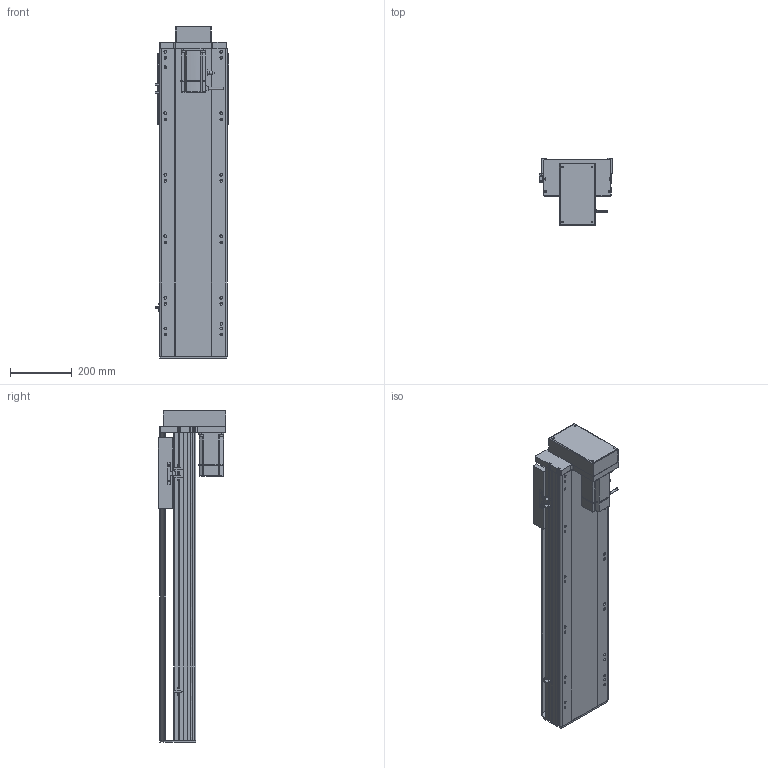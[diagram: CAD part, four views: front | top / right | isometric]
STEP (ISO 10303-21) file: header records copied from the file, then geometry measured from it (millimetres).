
FILE_DESCRIPTION (( 'STEP AP214' ), '1' );
FILE_NAME ('RTH22-XX-700-M-M75-C4.STEP', '2025-10-24T11:09:10', ( 'Microsoft' ), ( 'Microsoft' ), 'SwSTEP 2.0', 'SolidWorks 2018', '' );
FILE_SCHEMA (( 'AUTOMOTIVE_DESIGN' ));
Length unit declared in the file: millimetre
Products named in the file (10): N_RTH22-M-008-P75萇儂啣^RTH22-XX-XX-M-M75-C4; N_RTH22-L-011菁釱^RTH22-XX-XX-M-M75-C4; RTH22-XX-700-M-M75-C4; N_RTH22-M-018裔赽^RTH22-XX-XX-M-M75-C4; N_RTH22-M-007奻裔^RTH22-XX-XX-M-M75-C4; N_OMRON EE-SX672 传感器^RTH22-XX-XX-M-M75-C4; N_RTH22-GY-013外置感应片^RTH22-XX-XX-M-M75-C4; N_RTH22-GY-001耜裔^RTH22-XX-XX-M-M75-C4; N_RTH22-L-004-SFS25賑釱^RTH22-XX-XX-M-M75-C4; N_750W萇儂^RTH22-XX-XX-M-M75-C4
Assembly tree (11 placements, depth 2):
  RTH22-XX-700-M-M75-C4
    N_RTH22-L-011菁釱^RTH22-XX-XX-M-M75-C4
    N_RTH22-GY-001耜裔^RTH22-XX-XX-M-M75-C4
    N_750W萇儂^RTH22-XX-XX-M-M75-C4
    N_RTH22-M-008-P75萇儂啣^RTH22-XX-XX-M-M75-C4
    N_RTH22-M-007奻裔^RTH22-XX-XX-M-M75-C4
    N_RTH22-M-018裔赽^RTH22-XX-XX-M-M75-C4
    N_OMRON EE-SX672 传感器^RTH22-XX-XX-M-M75-C4  x3
    N_RTH22-GY-013外置感应片^RTH22-XX-XX-M-M75-C4
    N_RTH22-L-004-SFS25賑釱^RTH22-XX-XX-M-M75-C4
Bounding box: 238.5 x 218.5 x 1079.7 mm (x, y, z)
Volume: 15331655.2 mm3; surface area: 1719577.4 mm2
Topology: 11 solids, 11 shells, 1605 faces, 4380 edges, 2825 vertices
Faces by surface type: plane 805, cylinder 463, bspline 279, cone 58
Entity records: 40341 total; most frequent: CARTESIAN_POINT 12216, ORIENTED_EDGE 5736, DIRECTION 5402, EDGE_CURVE 2868, VERTEX_POINT 1861, AXIS2_PLACEMENT_3D 1807, VECTOR 1788, LINE 1788
